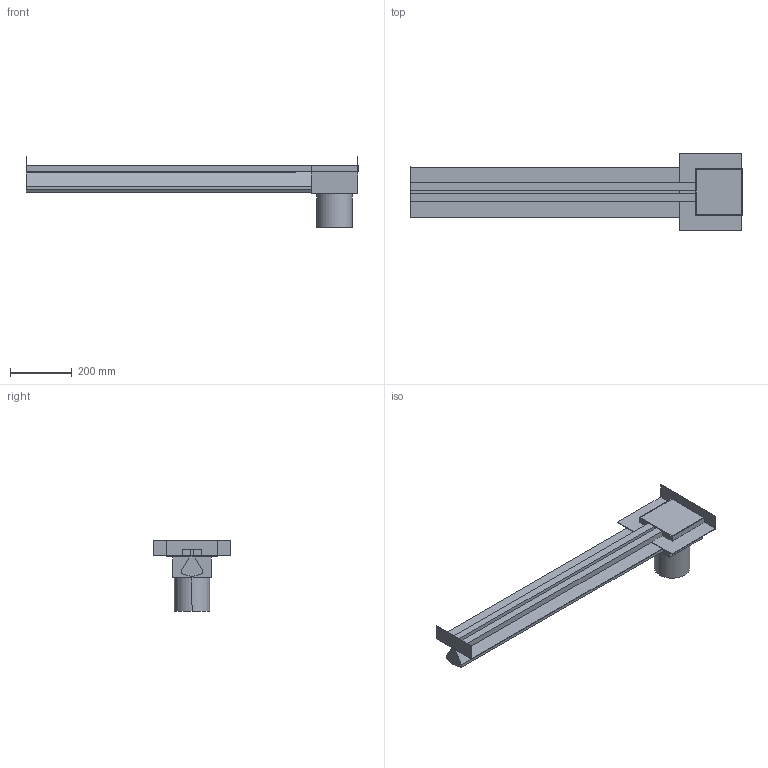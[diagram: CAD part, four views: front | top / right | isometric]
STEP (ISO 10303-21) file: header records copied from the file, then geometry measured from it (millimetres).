
FILE_DESCRIPTION(/* description */ (''),/* implementation_level */ '2;1');
FILE_NAME(/* name */ 'E:\Workspace\resitec\Packs\Kategorie\Entwässerungsrinne\STP\RS772K.65.150Schlitzrinne mit Rand 25mm AuslaufkastenE151mm-2xZargeL+R-2xKRV+H.s.ipt.stp',/* time_stamp */ '2020-10-04T20:57:20+02:00',/* author */ ('ndmes'),/* organization */ (''),/* preprocessor_version */ 'ST-DEVELOPER v18.1',/* originating_system */ 'Autodesk Inventor 2021',/* authorisation */ '');
FILE_SCHEMA (('AUTOMOTIVE_DESIGN { 1 0 10303 214 3 1 1 }'));
Length unit declared in the file: millimetre
Products named in the file (1): RS772K.65.150Schlitzrinne mit Rand 25mm AuslaufkastenE151mm-2xZargeL+
R-2xKRV+H.s
Bounding box: 1075.5 x 251 x 230 mm (x, y, z)
Volume: 7541278.7 mm3; surface area: 1043518.4 mm2
Topology: 10 solids, 10 shells, 71 faces, 153 edges, 102 vertices
Faces by surface type: plane 69, cylinder 2
Entity records: 1927 total; most frequent: CARTESIAN_POINT 327, ORIENTED_EDGE 306, DIRECTION 301, EDGE_CURVE 153, LINE 149, VECTOR 149, VERTEX_POINT 102, AXIS2_PLACEMENT_3D 76
